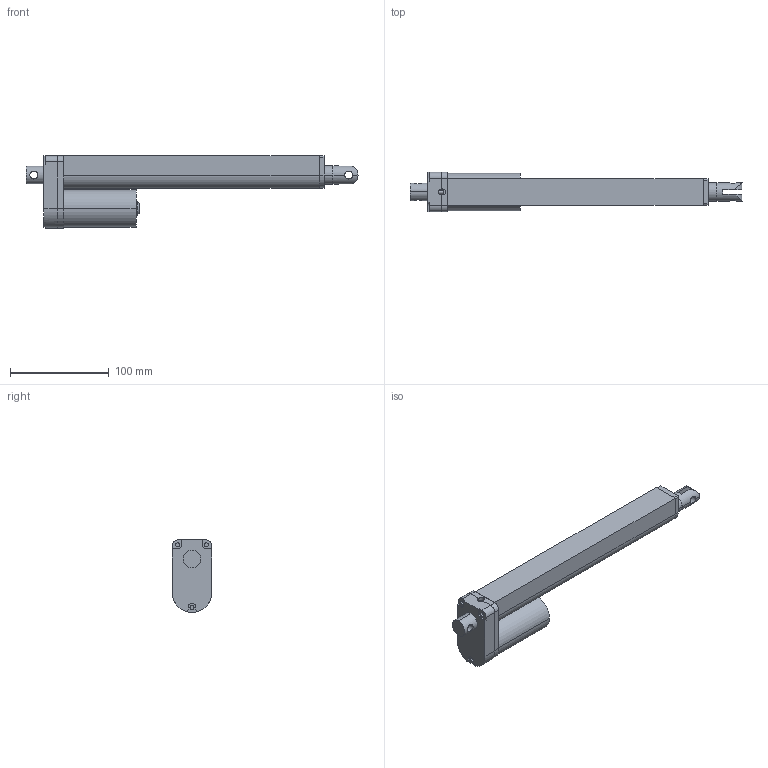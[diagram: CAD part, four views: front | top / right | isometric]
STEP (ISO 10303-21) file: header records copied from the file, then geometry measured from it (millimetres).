
FILE_DESCRIPTION((''),'2;1');
FILE_NAME('LAS-S100_ASM','2007-07-11T',('amyliao'),(''),'PRO/ENGINEER BY PARAMETRIC TECHNOLOGY CORPORATION, 2003210','PRO/ENGINEER BY PARAMETRIC TECHNOLOGY CORPORATION, 2003210','');
FILE_SCHEMA(('CONFIG_CONTROL_DESIGN'));
Length unit declared in the file: millimetre
Products named in the file (8): GEAR02; GEAR01; OUT-TUB; 1; LAS-IN-TUB_100; LAS-IN-PLUG; LAS-MOTOR; LAS-S100_ASM
Assembly tree (7 placements, depth 2):
  LAS-S100_ASM
    GEAR02
    GEAR01
    OUT-TUB
    1
    LAS-IN-TUB_100
    LAS-IN-PLUG
    LAS-MOTOR
Bounding box: 336.4 x 40 x 73.6 mm (x, y, z)
Volume: 186757.2 mm3; surface area: 104425.3 mm2
Topology: 7 solids, 7 shells, 150 faces, 393 edges, 260 vertices
Faces by surface type: cylinder 77, plane 71, cone 2
Entity records: 5111 total; most frequent: CARTESIAN_POINT 1030, DIRECTION 861, ORIENTED_EDGE 786, EDGE_CURVE 393, AXIS2_PLACEMENT_3D 315, VERTEX_POINT 260, VECTOR 231, LINE 231
